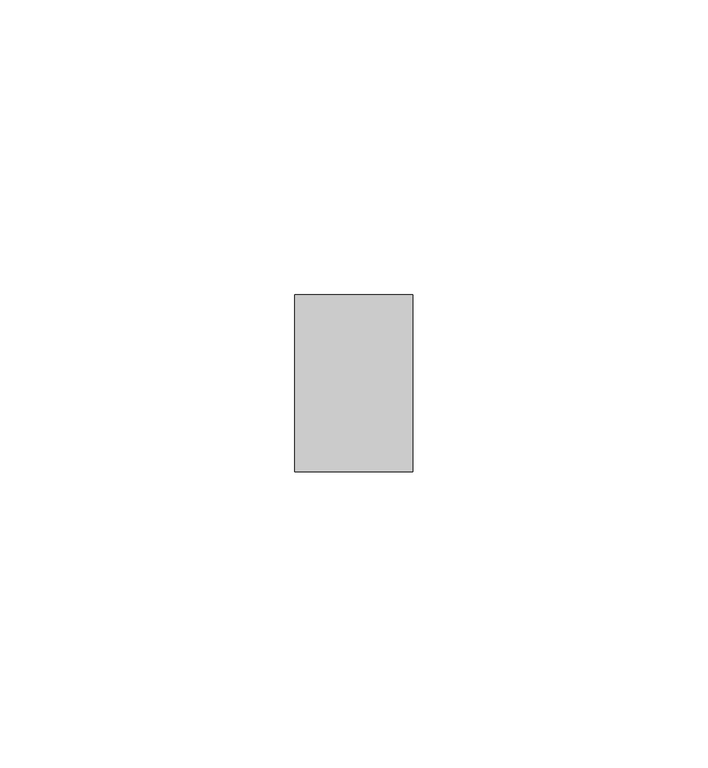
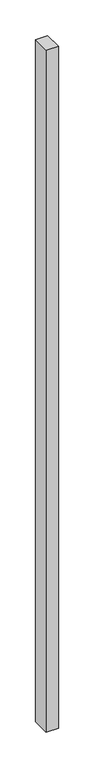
"""IFC4 building model written with IfcOpenShell, lengths in millimetres: member geometry, Прямоугольный импост : Квадрат 10 мм - Зазор между навесными плитами."""

from ifc_helpers import new_model, si_unit, frame, origin, place, context, project, spatial, polyline, outline, extrude, source, transform, mapped, element, save


def member_af474b5d(model_context):
    return source(origin(), model_context, "Body", "SweptSolid", [
        extrude(outline(polyline([(10.0, 15.0), (10.0, -15.0), (-10.0, -15.0), (-10.0, 15.0), (10.0, 15.0)])), frame((0.0, 0.0, -1170.0), z_axis=(0.0, 0.0, 1.0), x_axis=(1.0, 0.0, 0.0)), (0.0, 0.0, 1.0), 1170.0),
    ])


if __name__ == "__main__":
    model = new_model("IFC4")
    model_context = context("Model", 3, world=origin())
    ifc_project = project(units=[si_unit("LENGTHUNIT", "METRE", prefix="MILLI")], contexts=[model_context])
    site = spatial("IfcSite", under=ifc_project)
    building = spatial("IfcBuilding", under=site)
    placement = place(None, origin())
    member_shape = member_af474b5d(model_context)
    element("IfcMember", 1, ObjectType="Прямоугольный импост : Квадрат 10 мм - Зазор между навесными плитами", at=placement, inside=building, context=model_context, shape_type="MappedRepresentation", body=[
        mapped(member_shape, transform((0.0, 0.0, 0.0), x_axis=(1.0, 0.0, 0.0), y_axis=(0.0, 1.0, 0.0), z_axis=(0.0, 0.0, 1.0))),
    ])
    save(model, "model.ifc")
